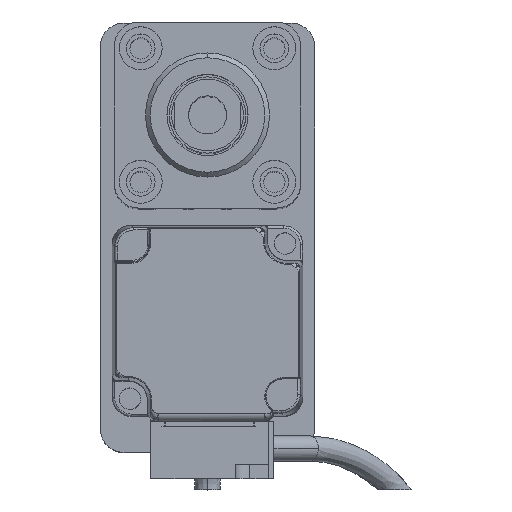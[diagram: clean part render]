
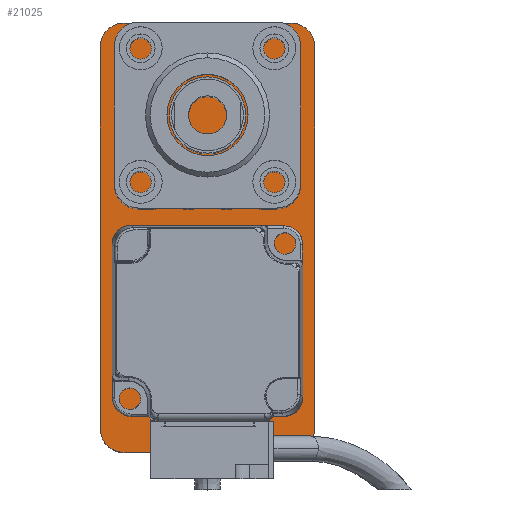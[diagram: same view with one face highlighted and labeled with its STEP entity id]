
A CAD part, top view. The second image highlights one B-rep face of the part: STEP entity #21025.
In plain terms, the highlighted planar face has unit normal (0, 0, 1).
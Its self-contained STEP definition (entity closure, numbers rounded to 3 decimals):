
#18 = DIRECTION ( 'NONE',  ( 0., 1., 0. ) ) ;
#606 = CARTESIAN_POINT ( 'NONE',  ( 17.5, 40., 10. ) ) ;
#707 = ORIENTED_EDGE ( 'NONE', *, *, #17510, .T. ) ;
#1875 = CARTESIAN_POINT ( 'NONE',  ( 22.5, 40., 10. ) ) ;
#1928 = VERTEX_POINT ( 'NONE', #9353 ) ;
#2162 = DIRECTION ( 'NONE',  ( 1., 0., 0. ) ) ;
#2293 = CARTESIAN_POINT ( 'NONE',  ( 0., 0., 10. ) ) ;
#2350 = EDGE_CURVE ( 'NONE', #19803, #15040, #27258, .T. ) ;
#2647 = ORIENTED_EDGE ( 'NONE', *, *, #4642, .T. ) ;
#2751 = VECTOR ( 'NONE', #22568, 1000. ) ;
#3436 = DIRECTION ( 'NONE',  ( 1., 0., 0. ) ) ;
#3803 = ORIENTED_EDGE ( 'NONE', *, *, #8131, .T. ) ;
#4642 = EDGE_CURVE ( 'NONE', #12219, #19803, #15251, .T. ) ;
#6589 = ORIENTED_EDGE ( 'NONE', *, *, #8238, .T. ) ;
#7634 = AXIS2_PLACEMENT_3D ( 'NONE', #606, #12142, #17079 ) ;
#8131 = EDGE_CURVE ( 'NONE', #9479, #29773, #15762, .T. ) ;
#8238 = EDGE_CURVE ( 'NONE', #29773, #14736, #11433, .T. ) ;
#8718 = CARTESIAN_POINT ( 'NONE',  ( -17.5, 40., 10. ) ) ;
#8929 = PLANE ( 'NONE',  #14738 ) ;
#9034 = ORIENTED_EDGE ( 'NONE', *, *, #2350, .T. ) ;
#9353 = CARTESIAN_POINT ( 'NONE',  ( -17.5, 45., 10. ) ) ;
#9479 = VERTEX_POINT ( 'NONE', #27105 ) ;
#10724 = ORIENTED_EDGE ( 'NONE', *, *, #14095, .T. ) ;
#11382 = CIRCLE ( 'NONE', #16120, 5. ) ;
#11394 = DIRECTION ( 'NONE',  ( 1., 0., 0. ) ) ;
#11433 = CIRCLE ( 'NONE', #7634, 5. ) ;
#12070 = CARTESIAN_POINT ( 'NONE',  ( -22.5, -40., 10. ) ) ;
#12142 = DIRECTION ( 'NONE',  ( 0., 0., 1. ) ) ;
#12219 = VERTEX_POINT ( 'NONE', #20680 ) ;
#12981 = EDGE_CURVE ( 'NONE', #14736, #1928, #16491, .T. ) ;
#13427 = AXIS2_PLACEMENT_3D ( 'NONE', #27259, #13615, #15914 ) ;
#13543 = CARTESIAN_POINT ( 'NONE',  ( -22.5, -45., 10. ) ) ;
#13615 = DIRECTION ( 'NONE',  ( 0., 0., 1. ) ) ;
#13689 = AXIS2_PLACEMENT_3D ( 'NONE', #29449, #26909, #20815 ) ;
#13733 = DIRECTION ( 'NONE',  ( 0., -1., 0. ) ) ;
#13836 = CARTESIAN_POINT ( 'NONE',  ( 22.5, -45., 10. ) ) ;
#14095 = EDGE_CURVE ( 'NONE', #1928, #12219, #11382, .T. ) ;
#14580 = FACE_OUTER_BOUND ( 'NONE', #24872, .T. ) ;
#14736 = VERTEX_POINT ( 'NONE', #21610 ) ;
#14738 = AXIS2_PLACEMENT_3D ( 'NONE', #2293, #23016, #11394 ) ;
#15040 = VERTEX_POINT ( 'NONE', #27077 ) ;
#15251 = LINE ( 'NONE', #13543, #15928 ) ;
#15606 = CARTESIAN_POINT ( 'NONE',  ( 17.5, -45., 10. ) ) ;
#15762 = LINE ( 'NONE', #13836, #16892 ) ;
#15914 = DIRECTION ( 'NONE',  ( 1., 0., 0. ) ) ;
#15928 = VECTOR ( 'NONE', #13733, 1000. ) ;
#16120 = AXIS2_PLACEMENT_3D ( 'NONE', #8718, #20524, #2162 ) ;
#16491 = LINE ( 'NONE', #27313, #2751 ) ;
#16892 = VECTOR ( 'NONE', #18, 1000. ) ;
#17079 = DIRECTION ( 'NONE',  ( 1., 0., 0. ) ) ;
#17370 = CIRCLE ( 'NONE', #13689, 5. ) ;
#17510 = EDGE_CURVE ( 'NONE', #20420, #9479, #17370, .T. ) ;
#19414 = CARTESIAN_POINT ( 'NONE',  ( 22.5, -45., 10. ) ) ;
#19803 = VERTEX_POINT ( 'NONE', #12070 ) ;
#20420 = VERTEX_POINT ( 'NONE', #15606 ) ;
#20524 = DIRECTION ( 'NONE',  ( 0., 0., 1. ) ) ;
#20680 = CARTESIAN_POINT ( 'NONE',  ( -22.5, 40., 10. ) ) ;
#20815 = DIRECTION ( 'NONE',  ( 1., 0., 0. ) ) ;
#21025 = ADVANCED_FACE ( 'NONE', ( #14580 ), #8929, .T. ) ;
#21610 = CARTESIAN_POINT ( 'NONE',  ( 17.5, 45., 10. ) ) ;
#22187 = ORIENTED_EDGE ( 'NONE', *, *, #29117, .T. ) ;
#22568 = DIRECTION ( 'NONE',  ( -1., 0., 0. ) ) ;
#22913 = ORIENTED_EDGE ( 'NONE', *, *, #12981, .T. ) ;
#23016 = DIRECTION ( 'NONE',  ( 0., 0., 1. ) ) ;
#24714 = VECTOR ( 'NONE', #3436, 1000. ) ;
#24872 = EDGE_LOOP ( 'NONE', ( #3803, #6589, #22913, #10724, #2647, #9034, #22187, #707 ) ) ;
#26892 = LINE ( 'NONE', #19414, #24714 ) ;
#26909 = DIRECTION ( 'NONE',  ( 0., 0., 1. ) ) ;
#27077 = CARTESIAN_POINT ( 'NONE',  ( -17.5, -45., 10. ) ) ;
#27105 = CARTESIAN_POINT ( 'NONE',  ( 22.5, -40., 10. ) ) ;
#27258 = CIRCLE ( 'NONE', #13427, 5. ) ;
#27259 = CARTESIAN_POINT ( 'NONE',  ( -17.5, -40., 10. ) ) ;
#27313 = CARTESIAN_POINT ( 'NONE',  ( 22.5, 45., 10. ) ) ;
#29117 = EDGE_CURVE ( 'NONE', #15040, #20420, #26892, .T. ) ;
#29449 = CARTESIAN_POINT ( 'NONE',  ( 17.5, -40., 10. ) ) ;
#29773 = VERTEX_POINT ( 'NONE', #1875 ) ;
